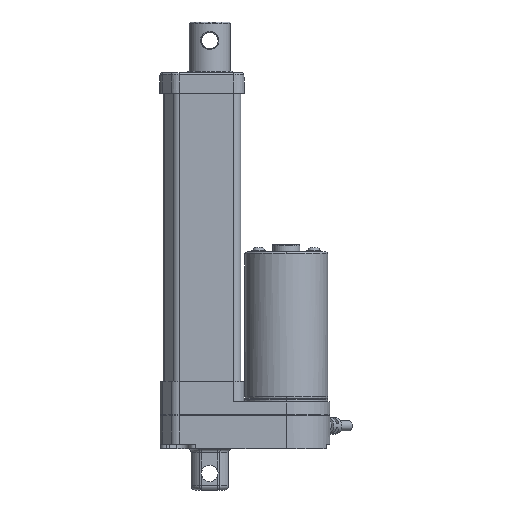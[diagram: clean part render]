
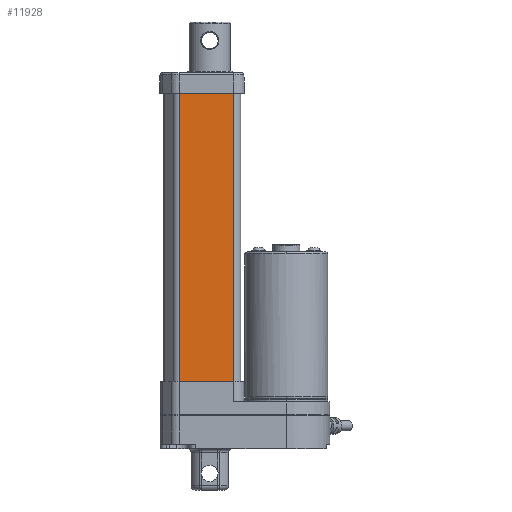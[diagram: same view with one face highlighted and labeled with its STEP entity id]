
A CAD part, left-side view. The second image highlights one B-rep face of the part: STEP entity #11928.
In plain terms, the highlighted planar face has unit normal (-1, 0, 0).
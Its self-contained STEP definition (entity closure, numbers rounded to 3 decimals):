
#979 = LINE ( 'NONE', #2993, #10847 ) ;
#1041 = ORIENTED_EDGE ( 'NONE', *, *, #10116, .F. ) ;
#1212 = VERTEX_POINT ( 'NONE', #9896 ) ;
#1251 = VERTEX_POINT ( 'NONE', #6183 ) ;
#1301 = DIRECTION ( 'NONE',  ( 0., -1., 0. ) ) ;
#1638 = CARTESIAN_POINT ( 'NONE',  ( -19.5, 51.73, 0. ) ) ;
#1790 = VECTOR ( 'NONE', #4894, 1000. ) ;
#1838 = LINE ( 'NONE', #4733, #1790 ) ;
#2580 = ORIENTED_EDGE ( 'NONE', *, *, #7614, .T. ) ;
#2993 = CARTESIAN_POINT ( 'NONE',  ( -19.5, 51.73, 151. ) ) ;
#3736 = CARTESIAN_POINT ( 'NONE',  ( -19.5, 51.73, 151. ) ) ;
#3959 = DIRECTION ( 'NONE',  ( -1., 0., 0. ) ) ;
#4225 = ORIENTED_EDGE ( 'NONE', *, *, #6703, .F. ) ;
#4733 = CARTESIAN_POINT ( 'NONE',  ( -19.5, 25.5, 0. ) ) ;
#4894 = DIRECTION ( 'NONE',  ( 0., 0., 1. ) ) ;
#5044 = VERTEX_POINT ( 'NONE', #3736 ) ;
#5131 = ORIENTED_EDGE ( 'NONE', *, *, #10854, .T. ) ;
#5277 = VERTEX_POINT ( 'NONE', #9238 ) ;
#6090 = CARTESIAN_POINT ( 'NONE',  ( -19.5, 51.73, 0. ) ) ;
#6183 = CARTESIAN_POINT ( 'NONE',  ( -19.5, 51.73, 0. ) ) ;
#6703 = EDGE_CURVE ( 'NONE', #5044, #1212, #979, .T. ) ;
#6728 = EDGE_LOOP ( 'NONE', ( #4225, #1041, #5131, #2580 ) ) ;
#7614 = EDGE_CURVE ( 'NONE', #5277, #1212, #1838, .T. ) ;
#8299 = AXIS2_PLACEMENT_3D ( 'NONE', #10718, #3959, #11871 ) ;
#8462 = LINE ( 'NONE', #6090, #8527 ) ;
#8527 = VECTOR ( 'NONE', #14026, 1000. ) ;
#9238 = CARTESIAN_POINT ( 'NONE',  ( -19.5, 25.5, 0. ) ) ;
#9527 = DIRECTION ( 'NONE',  ( 0., -1., 0. ) ) ;
#9896 = CARTESIAN_POINT ( 'NONE',  ( -19.5, 25.5, 151. ) ) ;
#10116 = EDGE_CURVE ( 'NONE', #1251, #5044, #8462, .T. ) ;
#10385 = LINE ( 'NONE', #1638, #10451 ) ;
#10451 = VECTOR ( 'NONE', #9527, 1000. ) ;
#10572 = PLANE ( 'NONE',  #8299 ) ;
#10718 = CARTESIAN_POINT ( 'NONE',  ( -19.5, 51.73, 0. ) ) ;
#10847 = VECTOR ( 'NONE', #1301, 1000. ) ;
#10854 = EDGE_CURVE ( 'NONE', #1251, #5277, #10385, .T. ) ;
#11871 = DIRECTION ( 'NONE',  ( 0., 0., 1. ) ) ;
#11928 = ADVANCED_FACE ( 'NONE', ( #13752 ), #10572, .T. ) ;
#13752 = FACE_OUTER_BOUND ( 'NONE', #6728, .T. ) ;
#14026 = DIRECTION ( 'NONE',  ( 0., 0., 1. ) ) ;
